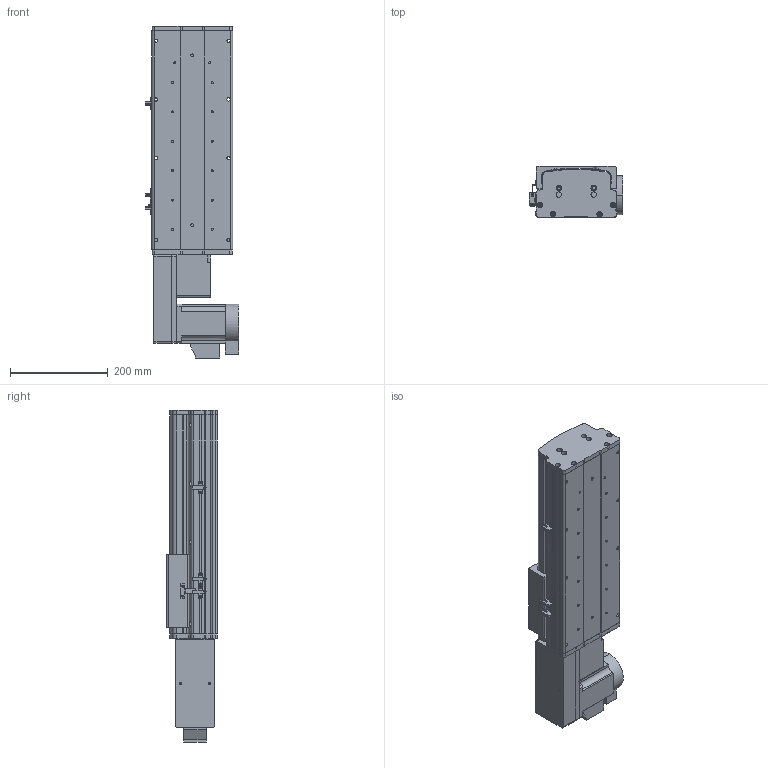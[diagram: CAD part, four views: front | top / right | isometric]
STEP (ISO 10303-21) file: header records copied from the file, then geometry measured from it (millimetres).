
FILE_DESCRIPTION (( 'STEP AP214' ), '1' );
FILE_NAME ('KSD165B-S200-MLB-CM.STEP', '2017-10-16T05:44:50', ( '微软用户' ), ( '微软中国' ), 'SwSTEP 2.0', 'SolidWorks 2014', '' );
FILE_SCHEMA (( 'AUTOMOTIVE_DESIGN' ));
Length unit declared in the file: millimetre
Products named in the file (17): KSD165B-S200-MLB-CM; HTPA26S5M250-A-H8 750W萇儂蚚; HTPA26S5M250-A-H8 400W萇儂蚚 ; 130宽模组马达安装板连板左右折同步带; 130宽模组保护罩上下左右折-同步带; 165宽马达安装板同步带左-改; KSD165模组-同步带防尘盖1-200行程-最新版; KSD165模组同步带底板-200行程-最新; 拸秶雄ん750W侜督萇儂; U倰嫖萇假蚾璃; U倰嫖萇EEㄜSX672; 覜茼え68遵圉猾敕; KSD165模组-同步带-防撞垫2; KSD165模组同步带-防撞垫1; KSD165耀郪-ヶ傷啣1-肮祭湍; KSD165模组-后端板1-同步带; KSD165模组-同步带滑动座-最新版
Assembly tree (20 placements, depth 2):
  KSD165B-S200-MLB-CM
    KSD165模组-同步带滑动座-最新版
    KSD165模组-后端板1-同步带
    KSD165耀郪-ヶ傷啣1-肮祭湍
    KSD165模组同步带-防撞垫1
    KSD165模组-同步带-防撞垫2
    覜茼え68遵圉猾敕
    U倰嫖萇EEㄜSX672  x3
    U倰嫖萇假蚾璃  x3
    拸秶雄ん750W侜督萇儂
    KSD165模组同步带底板-200行程-最新
    KSD165模组-同步带防尘盖1-200行程-最新版
    165宽马达安装板同步带左-改
    130宽模组保护罩上下左右折-同步带
    130宽模组马达安装板连板左右折同步带
    HTPA26S5M250-A-H8 400W萇儂蚚 
    HTPA26S5M250-A-H8 750W萇儂蚚
Bounding box: 191.2 x 104 x 678 mm (x, y, z)
Volume: 4308030.2 mm3; surface area: 990831.2 mm2
Topology: 21 solids, 22 shells, 1853 faces, 5208 edges, 3396 vertices
Faces by surface type: cylinder 1165, plane 576, cone 112
Entity records: 59064 total; most frequent: CARTESIAN_POINT 12102, DIRECTION 9800, ORIENTED_EDGE 9076, EDGE_CURVE 4538, AXIS2_PLACEMENT_3D 3828, VERTEX_POINT 2988, CIRCLE 2172, VECTOR 2144
